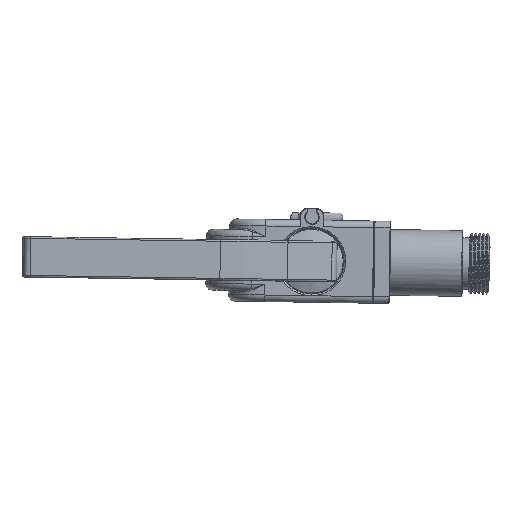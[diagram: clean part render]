
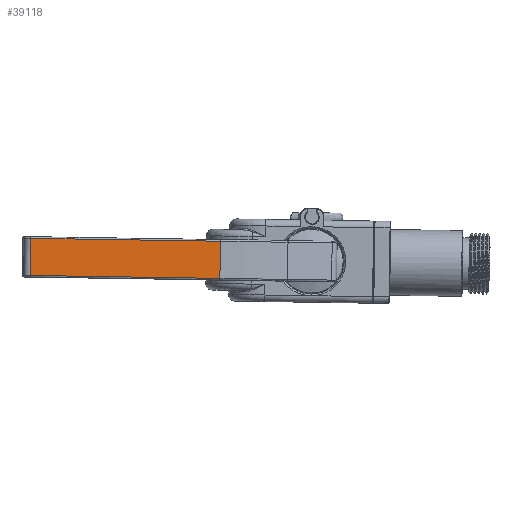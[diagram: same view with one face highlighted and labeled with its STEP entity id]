
A CAD part, left-side view. The second image highlights one B-rep face of the part: STEP entity #39118.
In plain terms, the highlighted planar face has unit normal (-0.999, -0.04, -0.001).
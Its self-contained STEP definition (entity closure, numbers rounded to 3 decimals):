
#1779 = ORIENTED_EDGE ( 'NONE', *, *, #47588, .T. ) ;
#1873 = CARTESIAN_POINT ( 'NONE',  ( -97.944, 48.978, -62.784 ) ) ;
#4286 = EDGE_CURVE ( 'NONE', #21689, #23925, #41407, .T. ) ;
#5568 = CARTESIAN_POINT ( 'NONE',  ( -96.803, 20.053, -57.576 ) ) ;
#9396 = DIRECTION ( 'NONE',  ( 0., 0.015, -1. ) ) ;
#12643 = EDGE_CURVE ( 'NONE', #27852, #39258, #35947, .T. ) ;
#13433 = VECTOR ( 'NONE', #30773, 1000. ) ;
#13953 = ORIENTED_EDGE ( 'NONE', *, *, #12643, .F. ) ;
#15136 = CARTESIAN_POINT ( 'NONE',  ( -96.803, 19.967, -51.926 ) ) ;
#15457 = LINE ( 'NONE', #5568, #45798 ) ;
#16643 = PLANE ( 'NONE',  #19946 ) ;
#16735 = CARTESIAN_POINT ( 'NONE',  ( -99.084, 77.816, -62.342 ) ) ;
#16880 = VECTOR ( 'NONE', #32308, 1000. ) ;
#17272 = CARTESIAN_POINT ( 'NONE',  ( -99.084, 77.643, -51.044 ) ) ;
#19946 = AXIS2_PLACEMENT_3D ( 'NONE', #39271, #43271, #20440 ) ;
#20440 = DIRECTION ( 'NONE',  ( -0.04, 0.999, 0.015 ) ) ;
#21689 = VERTEX_POINT ( 'NONE', #17272 ) ;
#23040 = CARTESIAN_POINT ( 'NONE',  ( -96.803, 20.14, -63.225 ) ) ;
#23925 = VERTEX_POINT ( 'NONE', #15136 ) ;
#27852 = VERTEX_POINT ( 'NONE', #23040 ) ;
#28024 = ORIENTED_EDGE ( 'NONE', *, *, #4286, .F. ) ;
#29351 = EDGE_LOOP ( 'NONE', ( #28024, #1779, #13953, #40396 ) ) ;
#30612 = EDGE_CURVE ( 'NONE', #23925, #27852, #15457, .T. ) ;
#30773 = DIRECTION ( 'NONE',  ( 0.04, -0.999, -0.015 ) ) ;
#30783 = CARTESIAN_POINT ( 'NONE',  ( -97.944, 48.805, -51.485 ) ) ;
#32308 = DIRECTION ( 'NONE',  ( -0.04, 0.999, 0.015 ) ) ;
#35947 = LINE ( 'NONE', #1873, #16880 ) ;
#39118 = ADVANCED_FACE ( 'NONE', ( #49062 ), #16643, .T. ) ;
#39258 = VERTEX_POINT ( 'NONE', #48363 ) ;
#39271 = CARTESIAN_POINT ( 'NONE',  ( -96.803, 19.967, -51.926 ) ) ;
#39533 = CARTESIAN_POINT ( 'NONE',  ( -99.084, 77.643, -51.044 ) ) ;
#40396 = ORIENTED_EDGE ( 'NONE', *, *, #30612, .F. ) ;
#41407 = LINE ( 'NONE', #30783, #13433 ) ;
#43271 = DIRECTION ( 'NONE',  ( -0.999, -0.04, -0.001 ) ) ;
#45798 = VECTOR ( 'NONE', #9396, 1000. ) ;
#47379 = B_SPLINE_CURVE_WITH_KNOTS ( 'NONE', 1,
 ( #39533, #16735 ),
 .UNSPECIFIED., .F., .F.,
 ( 2, 2 ),
 ( 0., 1. ),
 .UNSPECIFIED. ) ;
#47588 = EDGE_CURVE ( 'NONE', #21689, #39258, #47379, .T. ) ;
#48363 = CARTESIAN_POINT ( 'NONE',  ( -99.084, 77.816, -62.342 ) ) ;
#49062 = FACE_OUTER_BOUND ( 'NONE', #29351, .T. ) ;
